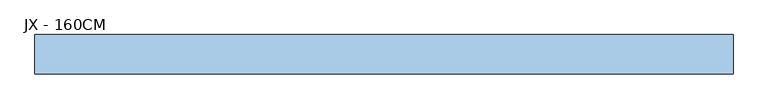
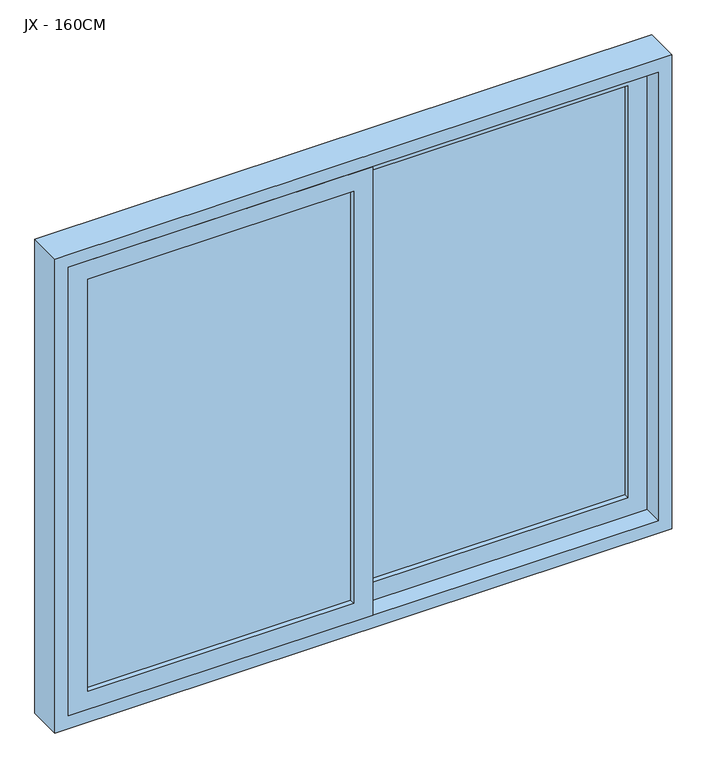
"""IFC4 building model written with IfcOpenShell, lengths in millimetres: window geometry, Janela de correr - 2 Painéis : JX - 160CM."""

import ifcopenshell
import ifcopenshell.guid

model = None  # the IFC model being written
_history = None  # IfcOwnerHistory: only IFC2X3 demands one
_inside = {}  # id of a spatial element -> (the spatial element, [elements in it])
_under = {}  # id of a project, library or spatial element -> (it, [spatial elements below it])
_declared = {}  # id of a project -> (the project, [libraries it declares])
_typed = {}  # id of a type object -> (the type object, [elements of that type])
_made_of = {}  # id of a material, layer set ... -> (it, [elements and type objects made of it])


def new_model(schema):
    """Start an empty IFC model of exactly this schema.

    Asked for "IFC4X3", IfcOpenShell would pick the latest addendum, in which some entities
    have other attributes; the version numbers below select the first issue.
    IFC2X3 requires an IfcOwnerHistory on every rooted entity: one is made here for all.
    """
    global model, _history
    if schema == "IFC4X3":
        model = ifcopenshell.file(schema_version=(4, 3, 0, 0))
    else:
        model = ifcopenshell.file(schema=schema)
    _inside.clear()
    _under.clear()
    _declared.clear()
    _typed.clear()
    _made_of.clear()
    _history = None
    if model.schema == "IFC2X3":
        org = make("IfcOrganization", Name="unknown")
        user = make(
            "IfcPersonAndOrganization",
            ThePerson=make("IfcPerson", FamilyName="unknown"),
            TheOrganization=org,
        )
        app = make(
            "IfcApplication",
            ApplicationDeveloper=org,
            Version="unknown",
            ApplicationFullName="unknown",
            ApplicationIdentifier="unknown",
        )
        _history = make(
            "IfcOwnerHistory",
            OwningUser=user,
            OwningApplication=app,
            ChangeAction="ADDED",
            CreationDate=0,
        )
    return model


def make(cls, **values):
    """One entity of the class cls with the attributes given. An attribute that is None is left unset."""
    return model.create_entity(
        cls, **{name: value for name, value in values.items() if value is not None}
    )


def rooted(cls, **values):
    """An entity with a GlobalId (a new one), such as an element, a storey or a relation."""
    return make(cls, GlobalId=ifcopenshell.guid.new(), OwnerHistory=_history, **values)


def si_unit(unit_type, name, prefix=None):
    """IfcSIUnit, for example si_unit("LENGTHUNIT", "METRE", prefix="MILLI")."""
    return make("IfcSIUnit", UnitType=unit_type, Prefix=prefix, Name=name)


def assignment(units):
    """IfcUnitAssignment: the units of a project."""
    return None if units is None else make("IfcUnitAssignment", Units=units)


def point(xyz):
    """IfcCartesianPoint."""
    return None if xyz is None else make("IfcCartesianPoint", Coordinates=xyz)


def direction(xyz):
    """IfcDirection."""
    return None if xyz is None else make("IfcDirection", DirectionRatios=xyz)


def frame(location, z_axis=None, x_axis=None):
    """IfcAxis2Placement3D, a coordinate frame: its origin and axes. An axis left out is left unset."""
    return make(
        "IfcAxis2Placement3D",
        Location=point(location),
        Axis=direction(z_axis),
        RefDirection=direction(x_axis),
    )


def origin():
    """The frame at (0, 0, 0) with its axes left unset."""
    return frame((0.0, 0.0, 0.0))


def place(relative_to, where):
    """IfcLocalPlacement: puts the frame where relative to a parent placement (None: the world)."""
    return make(
        "IfcLocalPlacement", PlacementRelTo=relative_to, RelativePlacement=where
    )


def context(
    kind, dimensions, precision=None, world=None, true_north=None, identifier=None
):
    """IfcGeometricRepresentationContext, for example the 3D "Model" context."""
    return make(
        "IfcGeometricRepresentationContext",
        ContextIdentifier=identifier,
        ContextType=kind,
        CoordinateSpaceDimension=dimensions,
        Precision=precision,
        WorldCoordinateSystem=world,
        TrueNorth=true_north,
    )


def project(units=None, contexts=None):
    """IfcProject with its units and contexts."""
    return rooted(
        "IfcProject",
        Name="project",
        RepresentationContexts=contexts,
        UnitsInContext=assignment(units),
    )


def spatial(cls, under=None, at=None, **own):
    """A site, building, storey or space (cls), placed at a placement, below another one or the project."""
    s = rooted(cls, ObjectPlacement=at, **own)
    if under is not None:
        _under.setdefault(under.id(), (under, []))[1].append(s)
    return s


def polyline(points):
    """IfcPolyline through the points."""
    return make("IfcPolyline", Points=[point(p) for p in points])


def outline(outer, holes=None, kind="AREA"):
    """IfcArbitraryClosedProfileDef: a profile drawn as a closed curve; with holes, ...WithVoids."""
    if holes is None:
        return make("IfcArbitraryClosedProfileDef", ProfileType=kind, OuterCurve=outer)
    return make(
        "IfcArbitraryProfileDefWithVoids",
        ProfileType=kind,
        OuterCurve=outer,
        InnerCurves=holes,
    )


def extrude(swept, where, along, depth):
    """IfcExtrudedAreaSolid: the profile swept, set in the frame where, extruded along a direction by depth."""
    return make(
        "IfcExtrudedAreaSolid",
        SweptArea=swept,
        Position=where,
        ExtrudedDirection=direction(along),
        Depth=depth,
    )


def shape(context_of_items, identifier, shape_type, items):
    """IfcShapeRepresentation: the items that make up one representation, for example the "Body"."""
    return make(
        "IfcShapeRepresentation",
        ContextOfItems=context_of_items,
        RepresentationIdentifier=identifier,
        RepresentationType=shape_type,
        Items=items,
    )


def source(mapping_origin, context_of_items, identifier, shape_type, items):
    """IfcRepresentationMap: a shape defined once, which mapped items show again and again."""
    return make(
        "IfcRepresentationMap",
        MappingOrigin=mapping_origin,
        MappedRepresentation=shape(context_of_items, identifier, shape_type, items),
    )


def transform(
    local_origin,
    x_axis=None,
    y_axis=None,
    z_axis=None,
    scale=None,
    scale2=None,
    scale3=None,
    uniform=True,
):
    """IfcCartesianTransformationOperator3D, or its non-uniform kind. x_axis, y_axis, z_axis: its Axis1, 2, 3."""
    if uniform:
        return make(
            "IfcCartesianTransformationOperator3D",
            Axis1=direction(x_axis),
            Axis2=direction(y_axis),
            LocalOrigin=point(local_origin),
            Scale=scale,
            Axis3=direction(z_axis),
        )
    return make(
        "IfcCartesianTransformationOperator3DnonUniform",
        Axis1=direction(x_axis),
        Axis2=direction(y_axis),
        LocalOrigin=point(local_origin),
        Scale=scale,
        Axis3=direction(z_axis),
        Scale2=scale2,
        Scale3=scale3,
    )


def mapped(mapping_source, mapping_target):
    """IfcMappedItem: shows the shape of a source again, moved by a transform."""
    return make(
        "IfcMappedItem", MappingSource=mapping_source, MappingTarget=mapping_target
    )


def made_of(thing, what):
    """Note that an element or type object is made of a material, layer set ...; save() writes the relation."""
    if what is not None:
        _made_of.setdefault(what.id(), (what, []))[1].append(thing)
    return thing


def element(
    cls,
    number,
    at=None,
    inside=None,
    cuts=None,
    type_object=None,
    material=None,
    context=None,
    identifier="Body",
    shape_type=None,
    held_by="IfcProductDefinitionShape",
    body=None,
    shapes=None,
    **own,
):
    """One element of the class cls, such as IfcWall. Its Tag is "e" and its number.

    at: its placement. inside: the storey or other place that contains it. cuts: it is an
    opening in that element (IfcRelVoidsElement). A single representation is given by context,
    identifier, shape_type and body (its items); several are given by shapes. held_by: the class
    of the entity that holds the representations. save() writes the other relations.
    """
    e = rooted(cls, Tag="e%d" % number, ObjectPlacement=at, **own)
    if body is not None:
        shapes = [shape(context, identifier, shape_type, body)]
    if shapes is not None:
        e.Representation = make(held_by, Representations=shapes)
    if inside is not None:
        _inside.setdefault(inside.id(), (inside, []))[1].append(e)
    if cuts is not None:
        rooted(
            "IfcRelVoidsElement", RelatingBuildingElement=cuts, RelatedOpeningElement=e
        )
    if type_object is not None:
        _typed.setdefault(type_object.id(), (type_object, []))[1].append(e)
    return made_of(e, material)


def aggregate(whole, parts):
    """IfcRelAggregates: a whole, such as a stair, and the parts it consists of."""
    return rooted("IfcRelAggregates", RelatingObject=whole, RelatedObjects=parts)


def save(model, path):
    """Write the relations noted so far, then the file.

    IfcRelAggregates (storeys below a building ...), IfcRelContainedInSpatialStructure (elements
    in a storey), IfcRelDefinesByType, IfcRelAssociatesMaterial and IfcRelDeclares: one each for
    every whole, place, type object, material and project.
    """
    for whole, parts in _under.values():
        aggregate(whole, parts)
    for where, things in _inside.values():
        rooted(
            "IfcRelContainedInSpatialStructure",
            RelatedElements=things,
            RelatingStructure=where,
        )
    for kind, things in _typed.values():
        rooted("IfcRelDefinesByType", RelatedObjects=things, RelatingType=kind)
    for what, things in _made_of.values():
        rooted("IfcRelAssociatesMaterial", RelatedObjects=things, RelatingMaterial=what)
    for by, libraries in _declared.values():
        rooted("IfcRelDeclares", RelatingContext=by, RelatedDefinitions=libraries)
    model.write(path)


def jx_160cm_e9e36a0c(model_context):
    return source(origin(), model_context, "Body", "SweptSolid", [
        extrude(outline(polyline([(685.0, -25.0), (685.0, 765.0), (1915.0, 765.0), (1915.0, -25.0), (685.0, -25.0)]), holes=[polyline([(1865.0, 25.0), (1865.0, 715.0), (735.0, 715.0), (735.0, 25.0), (1865.0, 25.0)])]), frame((0.0, -25.0, 0.0), z_axis=(0.0, 1.0, 0.0), x_axis=(0.0, 0.0, 1.0)), (0.0, 0.0, 1.0), 40.0),
        extrude(outline(polyline([(1915.0, 25.0), (1915.0, -765.0), (685.0, -765.0), (685.0, 25.0), (1915.0, 25.0)]), holes=[polyline([(735.0, -25.0), (735.0, -715.0), (1865.0, -715.0), (1865.0, -25.0), (735.0, -25.0)])]), frame((0.0, -75.0, 0.0), z_axis=(0.0, 1.0, 0.0), x_axis=(0.0, 0.0, 1.0)), (0.0, 0.0, 1.0), 40.0),
        extrude(outline(polyline([(1950.0, 800.0), (1950.0, -800.0), (650.0, -800.0), (650.0, 800.0), (1950.0, 800.0)]), holes=[polyline([(685.0, 765.0), (685.0, -765.0), (1915.0, -765.0), (1915.0, 765.0), (685.0, 765.0)])]), frame((0.0, -75.0, 0.0), z_axis=(0.0, 1.0, 0.0), x_axis=(0.0, 0.0, 1.0)), (0.0, 0.0, 1.0), 90.0),
        extrude(outline(polyline([(25.0, 2.0), (715.0, 2.0), (715.0, -12.0), (25.0, -12.0), (25.0, 2.0)])), frame((0.0, 0.0, 735.0), z_axis=(0.0, 0.0, 1.0), x_axis=(1.0, 0.0, 0.0)), (0.0, 0.0, 1.0), 1130.0),
        extrude(outline(polyline([(-715.0, -48.0), (-25.0, -48.0), (-25.0, -62.0), (-715.0, -62.0), (-715.0, -48.0)])), frame((0.0, 0.0, 735.0), z_axis=(0.0, 0.0, 1.0), x_axis=(1.0, 0.0, 0.0)), (0.0, 0.0, 1.0), 1130.0),
    ])


if __name__ == "__main__":
    model = new_model("IFC4")
    model_context = context("Model", 3, world=origin())
    ifc_project = project(units=[si_unit("LENGTHUNIT", "METRE", prefix="MILLI")], contexts=[model_context])
    site = spatial("IfcSite", under=ifc_project)
    building = spatial("IfcBuilding", under=site)
    placement = place(None, origin())
    jx_160cm_shape = jx_160cm_e9e36a0c(model_context)
    element("IfcWindow", 1, ObjectType="Janela de correr - 2 Painéis : JX - 160CM", at=placement, inside=building, context=model_context, shape_type="MappedRepresentation", body=[
        mapped(jx_160cm_shape, transform((0.0, 0.0, 0.0), x_axis=(1.0, 0.0, 0.0), y_axis=(0.0, 1.0, 0.0), z_axis=(0.0, 0.0, 1.0))),
    ])
    save(model, "model.ifc")
